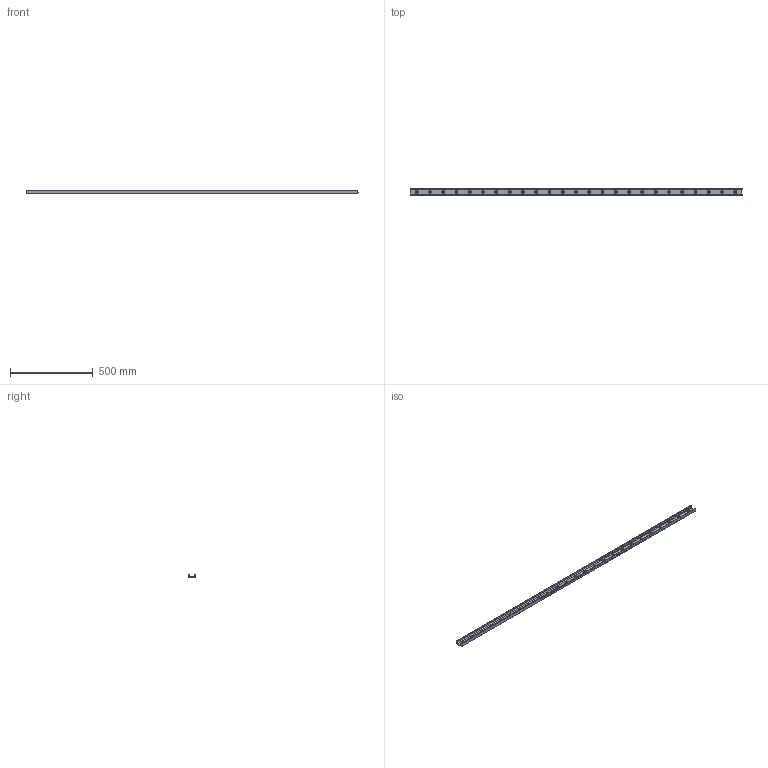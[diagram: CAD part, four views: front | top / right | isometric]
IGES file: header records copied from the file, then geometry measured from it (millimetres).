
Start section: SolidWorks IGES file using analytic representation for surfaces
Global section: file name: C:\Users\IanO\Desktop\43\L1943.ULV43_v2_20180121_IGES\L1943.ULV43-2000.igs; native system: SolidWorks 2017; preprocessor: SolidWorks 2017; author: IanO; date: 190121.090215; units: millimetre
Bounding box: 2000 x 43 x 21 mm (x, y, z)
Surface area: 310527.2 mm2 (no closed solid volume)
Topology: 0 solids, 0 shells, 126 faces, 2294 edges, 2294 vertices
Faces by surface type: revolution 113, bspline 13
